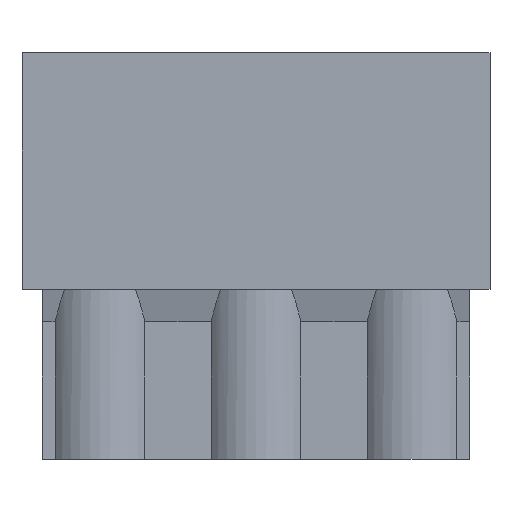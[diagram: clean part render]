
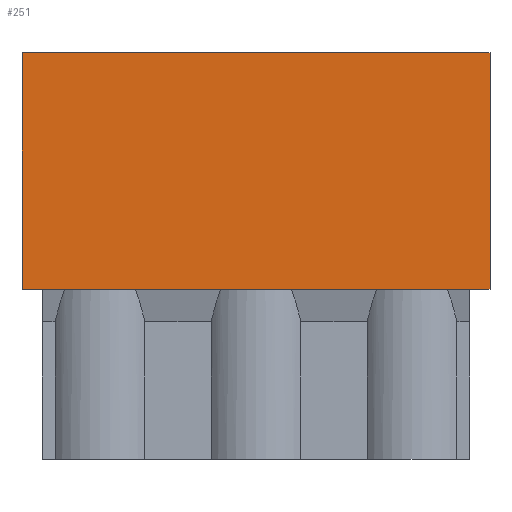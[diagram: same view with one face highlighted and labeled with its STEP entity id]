
A CAD part, front view. The second image highlights one B-rep face of the part: STEP entity #251.
In plain terms, the highlighted planar face has unit normal (0, -1, 0).
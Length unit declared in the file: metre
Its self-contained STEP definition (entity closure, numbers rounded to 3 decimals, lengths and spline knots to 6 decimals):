
#251=ADVANCED_FACE('',(#630),#631,.T.);
#630=FACE_OUTER_BOUND('',#1157,.T.);
#631=PLANE('',#1158);
#1157=EDGE_LOOP('',(#1836,#1837,#1838,#1839));
#1158=AXIS2_PLACEMENT_3D('',#1840,#1841,#1842);
#1836=ORIENTED_EDGE('',*,*,#3187,.T.);
#1837=ORIENTED_EDGE('',*,*,#3188,.F.);
#1838=ORIENTED_EDGE('',*,*,#3189,.F.);
#1839=ORIENTED_EDGE('',*,*,#3190,.T.);
#1840=CARTESIAN_POINT('',(0.07614,0.,0.));
#1841=DIRECTION('',(0.,-1.0,0.));
#1842=DIRECTION('',(0.0,0.,-1.0));
#3187=EDGE_CURVE('',#3856,#3857,#3858,.T.);
#3188=EDGE_CURVE('',#3859,#3857,#3860,.T.);
#3189=EDGE_CURVE('',#3861,#3859,#3862,.T.);
#3190=EDGE_CURVE('',#3861,#3856,#3863,.T.);
#3856=VERTEX_POINT('',#4774);
#3857=VERTEX_POINT('',#4775);
#3858=LINE('',#4776,#4777);
#3859=VERTEX_POINT('',#4778);
#3860=LINE('',#4779,#4780);
#3861=VERTEX_POINT('',#4781);
#3862=LINE('',#4782,#4783);
#3863=LINE('',#4784,#4785);
#4774=CARTESIAN_POINT('',(0.0762,0.0,0.));
#4775=CARTESIAN_POINT('',(0.05334,0.0,0.));
#4776=CARTESIAN_POINT('',(0.07614,0.,0.));
#4777=VECTOR('',#5772,1.0);
#4778=CARTESIAN_POINT('',(0.05334,0.0,-0.01155));
#4779=CARTESIAN_POINT('',(0.05334,0.0,0.));
#4780=VECTOR('',#5773,1.0);
#4781=CARTESIAN_POINT('',(0.0762,0.0,-0.01155));
#4782=CARTESIAN_POINT('',(0.07614,0.,-0.01155));
#4783=VECTOR('',#5774,1.0);
#4784=CARTESIAN_POINT('',(0.0762,0.0,0.));
#4785=VECTOR('',#5775,1.0);
#5772=DIRECTION('',(-1.0,0.,0.));
#5773=DIRECTION('',(0.,0.,1.0));
#5774=DIRECTION('',(-1.0,0.,0.));
#5775=DIRECTION('',(0.,0.,1.0));
